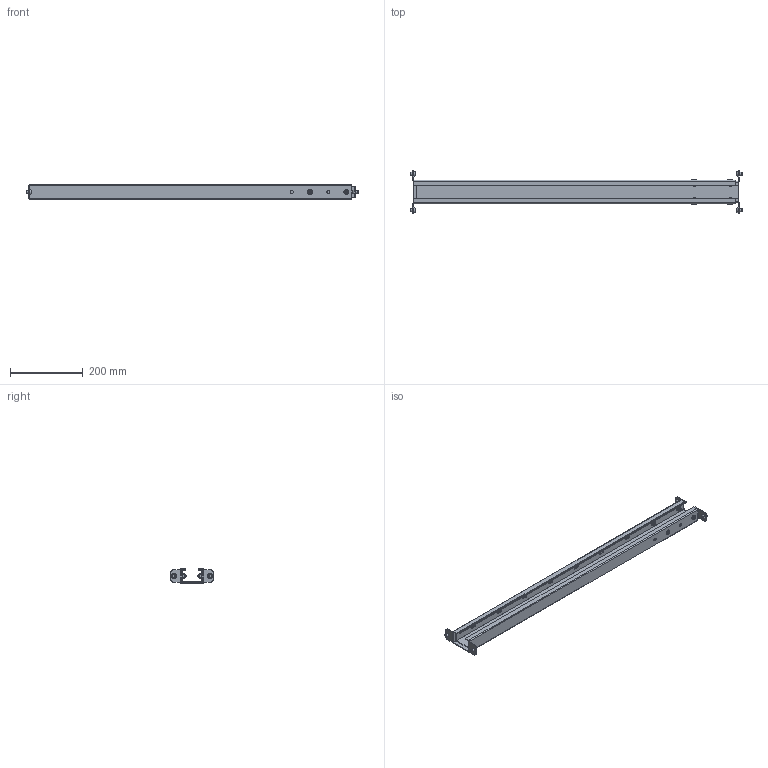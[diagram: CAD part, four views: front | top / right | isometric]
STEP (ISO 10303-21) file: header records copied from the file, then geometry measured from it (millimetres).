
FILE_DESCRIPTION(/* description */ ('Unknown'),/* implementation_level */ '2;1');
FILE_NAME(/* name */ '127.00842_00-900mm',/* time_stamp */ '2025-11-05T10:11:48+01:00',/* author */ ('Unknown'),/* organization */ ('Unknown'),/* preprocessor_version */ 'ST-DEVELOPER v20',/* originating_system */ 'Solid Edge',/* authorisation */ 'Unknown');
FILE_SCHEMA (('AUTOMOTIVE_DESIGN {1 0 10303 214 3 1 1}'));
Length unit declared in the file: millimetre
Products named in the file (7): 127.00842; E1 Traverse aussen; E1 Traverse innen; Halbrundkopfschraube M6x16; Scheibe ﾘ6,4; Sechskantmutter M6; Halbrundkopfschraube M8x10
Assembly tree (18 placements, depth 2):
  127.00842
    E1 Traverse aussen
    E1 Traverse innen
    Halbrundkopfschraube M6x16  x4
    Scheibe ﾘ6,4  x4
    Sechskantmutter M6  x4
    Halbrundkopfschraube M8x10  x4
Bounding box: 915 x 120 x 40 mm (x, y, z)
Volume: 675253.3 mm3; surface area: 555062.8 mm2
Topology: 18 solids, 18 shells, 593 faces, 1499 edges, 962 vertices
Faces by surface type: plane 260, cylinder 201, torus 72, bspline 48, cone 8, sphere 4
Full cylindrical faces by diameter (mm): 6 x8, 6.4 x4, 8 x4, 12 x4, 13.6 x4, 14 x4
Entity records: 9999 total; most frequent: CARTESIAN_POINT 2361, ORIENTED_EDGE 1530, DIRECTION 1523, EDGE_CURVE 765, AXIS2_PLACEMENT_3D 535, VERTEX_POINT 508, LINE 453, VECTOR 453
